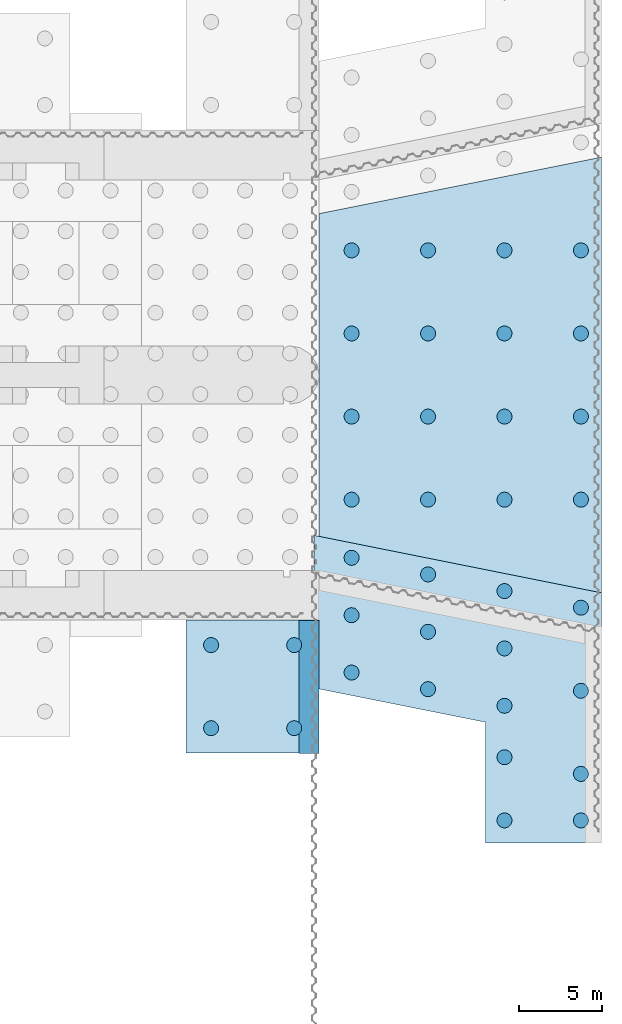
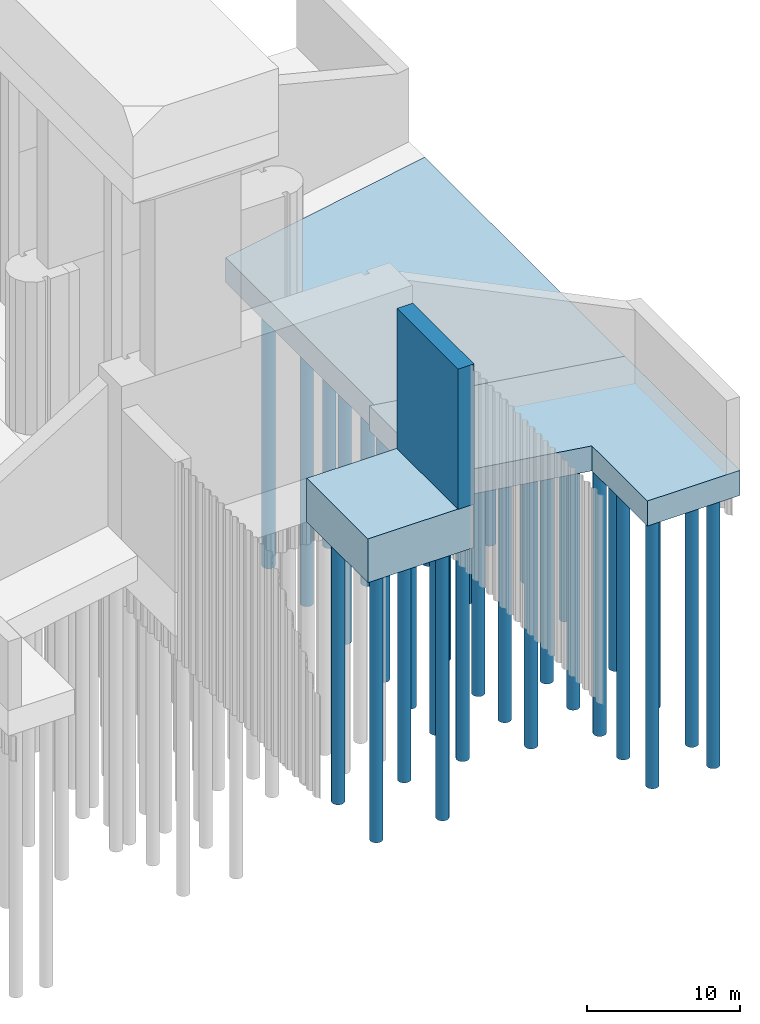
# One storey, part 4 of 9: 7 slabs.
"""IFC2X3 building model written with IfcOpenShell, lengths in millimetres."""

from ifc_helpers import new_model, entity, si_unit, converted_unit, derived_unit, direction, frame, frame_2d, origin, origin_2d_with_axis, place, context, subcontext, project, spatial, polyline, rectangle, circle, outline, extrude, material, type_object, element, save


model = new_model("IFC2X3")

# Units and contexts
model_context = context("Model", 3, precision=0.01, world=origin(), true_north=direction((6.12303176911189e-17, 1.0)))
body_context = subcontext(model_context, "Body", "Model", "MODEL_VIEW")
ifc_project = project(units=[si_unit("LENGTHUNIT", "METRE", prefix="MILLI"), si_unit("AREAUNIT", "SQUARE_METRE"), si_unit("VOLUMEUNIT", "CUBIC_METRE"), converted_unit("PLANEANGLEUNIT", "DEGREE", entity("IfcRatioMeasure", 0.0174532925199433), si_unit("PLANEANGLEUNIT", "RADIAN"), dimensions=[0, 0, 0, 0, 0, 0, 0]), si_unit("MASSUNIT", "GRAM", prefix="KILO"), derived_unit("MASSDENSITYUNIT", [(si_unit("MASSUNIT", "GRAM", prefix="KILO"), 1), (si_unit("LENGTHUNIT", "METRE"), -3)]), si_unit("TIMEUNIT", "SECOND"), si_unit("FREQUENCYUNIT", "HERTZ"), si_unit("THERMODYNAMICTEMPERATUREUNIT", "DEGREE_CELSIUS"), derived_unit("THERMALTRANSMITTANCEUNIT", [(si_unit("MASSUNIT", "GRAM", prefix="KILO"), 1), (si_unit("THERMODYNAMICTEMPERATUREUNIT", "KELVIN"), -1), (si_unit("TIMEUNIT", "SECOND"), -3)]), derived_unit("VOLUMETRICFLOWRATEUNIT", [(si_unit("LENGTHUNIT", "METRE"), 3), (si_unit("TIMEUNIT", "SECOND"), -1)]), si_unit("ELECTRICCURRENTUNIT", "AMPERE"), si_unit("ELECTRICVOLTAGEUNIT", "VOLT"), si_unit("POWERUNIT", "WATT"), si_unit("FORCEUNIT", "NEWTON", prefix="KILO"), si_unit("ILLUMINANCEUNIT", "LUX"), si_unit("LUMINOUSFLUXUNIT", "LUMEN"), si_unit("LUMINOUSINTENSITYUNIT", "CANDELA"), derived_unit("USERDEFINED", [(si_unit("MASSUNIT", "GRAM", prefix="KILO"), -1), (si_unit("LENGTHUNIT", "METRE"), -2), (si_unit("TIMEUNIT", "SECOND"), 3), (si_unit("LUMINOUSFLUXUNIT", "LUMEN"), 1)]), derived_unit("LINEARVELOCITYUNIT", [(si_unit("LENGTHUNIT", "METRE"), 1), (si_unit("TIMEUNIT", "SECOND"), -1)]), si_unit("PRESSUREUNIT", "PASCAL"), derived_unit("USERDEFINED", [(si_unit("LENGTHUNIT", "METRE"), -2), (si_unit("MASSUNIT", "GRAM", prefix="KILO"), 1), (si_unit("TIMEUNIT", "SECOND"), -2)])], contexts=[model_context])

# Site, building, storey
site_placement = place(None, origin())
site = spatial("IfcSite", under=ifc_project, at=site_placement, Name="Default", CompositionType="ELEMENT")
building_placement = place(site_placement, origin())
building = spatial("IfcBuilding", under=site, at=building_placement, CompositionType="ELEMENT")
storey_placement = place(building_placement, origin())
storey = spatial("IfcBuildingStorey", under=building, at=storey_placement, Name="設計GL", CompositionType="ELEMENT", Elevation=0.0)

# Slabs
ifc_material_1 = material(Name="コンクリート - 現場打ちコンクリート")
slab_type_1 = type_object("IfcSlabType", Name="40301_Co_川裏胸壁(下流)底版", PredefinedType="FLOOR", material=ifc_material_1)
slab_1_placement = place(storey_placement, origin())
element("IfcSlab", 1, at=slab_1_placement, inside=storey, type_object=slab_type_1, Name="40301_Co_川裏胸壁(下流)底版:40301_Co_川裏胸壁(下流)底版", ObjectType="40301_Co_川裏胸壁(下流)底版:40301_Co_川裏胸壁(下流)底版", PredefinedType="FLOOR", context=body_context, shape_type="SweptSolid", body=[
    extrude(rectangle(XDim=8000.00000000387, YDim=7999.99999999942, at=frame_2d((-4.32009983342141e-12, 2.04636307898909e-12), x_axis=(1.0, 0.0))), frame((-35111.6198004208, -80292.1243992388, 710.0), z_axis=(0.0, 0.0, 1.0), x_axis=(0.0, -1.0, 0.0)), (0.0, 0.0, 1.0), 3500.0),
])
slab_type_2 = type_object("IfcSlabType", Name="40701_Co_川裏翼壁(下流)底版", PredefinedType="FLOOR", material=ifc_material_1)
slab_2_placement = place(storey_placement, origin())
element("IfcSlab", 2, at=slab_2_placement, inside=storey, type_object=slab_type_2, Name="40701_Co_川裏翼壁(下流)底版:40701_Co_川裏翼壁(下流)底版", ObjectType="40701_Co_川裏翼壁(下流)底版:40701_Co_川裏翼壁(下流)底版", PredefinedType="FLOOR", context=body_context, shape_type="SweptSolid", body=[
    extrude(outline(polyline([(-9223.90261432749, 855.232818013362), (-11023.6474495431, -8144.61499376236), (6637.32496775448, -8144.56957429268), (9586.66534820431, 6603.00416501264), (2723.83535705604, 7975.71476701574), (1299.72439085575, 855.232818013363), (-9223.90261432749, 855.232818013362)])), frame((-22218.2229178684, -81337.2454768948, 2210.0), z_axis=(0.0, 0.0, -1.0), x_axis=(0.980585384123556, -0.196092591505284, 0.0)), (0.0, 0.0, -1.0), 2000.0),
])
slab_type_3 = type_object("IfcSlabType", Name="41001_Co_川裏翼壁_底版", PredefinedType="FLOOR", material=ifc_material_1)
slab_3_placement = place(storey_placement, origin())
element("IfcSlab", 3, at=slab_3_placement, inside=storey, type_object=slab_type_3, Name="41001_Co_川裏翼壁_底版:41001_Co_川裏翼壁_底版", ObjectType="41001_Co_川裏翼壁_底版:41001_Co_川裏翼壁_底版", PredefinedType="FLOOR", context=body_context, shape_type="SweptSolid", body=[
    extrude(outline(polyline([(-6430.77385682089, -11188.8580586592), (10905.8181575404, -11188.8580586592), (5764.05047140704, 14522.8466507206), (-10239.0947721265, 7854.86946659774), (-6430.77385682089, -11188.8580586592)])), frame((-22612.6693087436, -61542.1271637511, 2210.0), z_axis=(0.0, 0.0, 1.0), x_axis=(0.980584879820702, -0.196095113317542, 0.0)), (0.0, 0.0, 1.0), 2000.0),
])
slab_type_4 = type_object("IfcSlabType", Name="41601_Co_川裏胸壁(下流)側壁", PredefinedType="FLOOR", material=ifc_material_1)
slab_4_placement = place(storey_placement, origin())
element("IfcSlab", 4, at=slab_4_placement, inside=storey, type_object=slab_type_4, Name="41601_Co_川裏胸壁(下流)側壁:41601_Co_川裏胸壁(下流)側壁", ObjectType="41601_Co_川裏胸壁(下流)側壁:41601_Co_川裏胸壁(下流)側壁", PredefinedType="FLOOR", context=body_context, shape_type="SweptSolid", body=[
    extrude(rectangle(XDim=8000.0000000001, YDim=1199.99999999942, at=frame_2d((8.64019966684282e-12, -2.1600499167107e-12), x_axis=(1.0, 0.0))), frame((-31712.1441894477, -80322.1389265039, 4210.0), z_axis=(0.0, 0.0, 1.0), x_axis=(0.0, -1.0, 0.0)), (0.0, 0.0, 1.0), 11200.0),
])
ifc_material_2 = material(Name="ベタ基礎")
slab_type_5 = type_object("IfcSlabType", Name="70301.dwg", PredefinedType="FLOOR", material=ifc_material_2)
slab_5_placement = place(storey_placement, origin())
element("IfcSlab", 5, at=slab_5_placement, inside=storey, type_object=slab_type_5, Name="70301.dwg:70301.dwg", ObjectType="70301.dwg:70301.dwg", PredefinedType="FLOOR", context=body_context, shape_type="SweptSolid", body=[
    extrude(circle(Radius=450.0, at=origin_2d_with_axis()), frame((-37612.3774883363, -82791.8725997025, -21190.0)), (0.0, 0.0, 1.0), 22000.0),
    extrude(circle(Radius=450.0, at=origin_2d_with_axis()), frame((-32612.3774888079, -82791.8039357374, -21190.0)), (0.0, 0.0, 1.0), 22000.0),
    extrude(circle(Radius=450.0, at=origin_2d_with_axis()), frame((-37612.4461523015, -77791.872600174, -21190.0)), (0.0, 0.0, 1.0), 22000.0),
    extrude(circle(Radius=450.0, at=origin_2d_with_axis()), frame((-32612.446152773, -77791.8039362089, -21190.0)), (0.0, 0.0, 1.0), 22000.0),
])
slab_type_6 = type_object("IfcSlabType", Name="70701.dwg", PredefinedType="FLOOR", material=ifc_material_2)
slab_6_placement = place(storey_placement, origin())
element("IfcSlab", 6, at=slab_6_placement, inside=storey, type_object=slab_type_6, Name="70701.dwg:70701.dwg", ObjectType="70701.dwg:70701.dwg", PredefinedType="FLOOR", context=body_context, shape_type="SweptSolid", body=[
    extrude(circle(Radius=450.0, at=origin_2d_with_axis()), frame((-15358.7042148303, -88342.7044471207, -19690.0)), (0.0, 0.0, 1.0), 22000.0),
    extrude(circle(Radius=450.0, at=origin_2d_with_axis()), frame((-19958.7042148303, -88342.7044471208, -19690.0)), (0.0, 0.0, 1.0), 22000.0),
    extrude(circle(Radius=450.0, at=origin_2d_with_axis()), frame((-19958.7042148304, -84542.6313178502, -19690.0)), (0.0, 0.0, 1.0), 22000.0),
    extrude(circle(Radius=450.0, at=origin_2d_with_axis()), frame((-15358.7042148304, -85542.695861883, -19690.0)), (0.0, 0.0, 1.0), 22000.0),
    extrude(circle(Radius=450.0, at=origin_2d_with_axis()), frame((-15358.6698828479, -80542.6958620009, -19690.0)), (0.0, 0.0, 1.0), 22000.0),
    extrude(circle(Radius=450.0, at=origin_2d_with_axis()), frame((-19958.6698828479, -81445.2147165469, -19690.0)), (0.0, 0.0, 1.0), 22000.0),
    extrude(circle(Radius=450.0, at=origin_2d_with_axis()), frame((-15358.4776237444, -75541.9374313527, -19690.0)), (0.0, 0.0, 1.0), 22000.0),
    extrude(circle(Radius=450.0, at=origin_2d_with_axis()), frame((-19958.4913569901, -74541.9360582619, -19690.0)), (0.0, 0.0, 1.0), 22000.0),
    extrude(circle(Radius=450.0, at=origin_2d_with_axis()), frame((-24558.5050902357, -73541.9346851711, -19690.0)), (0.0, 0.0, 1.0), 22000.0),
    extrude(circle(Radius=450.0, at=origin_2d_with_axis()), frame((-29158.5188234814, -72541.9333120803, -19690.0)), (0.0, 0.0, 1.0), 22000.0),
    extrude(circle(Radius=450.0, at=origin_2d_with_axis()), frame((-29158.6698828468, -75993.7939291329, -19690.0)), (0.0, 0.0, 1.0), 22000.0),
    extrude(circle(Radius=450.0, at=origin_2d_with_axis()), frame((-29158.6698828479, -79445.0856284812, -19690.0)), (0.0, 0.0, 1.0), 22000.0),
    extrude(circle(Radius=450.0, at=origin_2d_with_axis()), frame((-24558.6698828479, -80445.1501725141, -19690.0)), (0.0, 0.0, 1.0), 22000.0),
    extrude(circle(Radius=450.0, at=origin_2d_with_axis()), frame((-24558.6698828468, -76993.8584731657, -19690.0)), (0.0, 0.0, 1.0), 22000.0),
    extrude(circle(Radius=450.0, at=origin_2d_with_axis()), frame((-19958.6698828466, -77993.9230171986, -19690.0)), (0.0, 0.0, 1.0), 22000.0),
])
slab_type_7 = type_object("IfcSlabType", Name="71001.dwg", PredefinedType="FLOOR", material=ifc_material_2)
slab_7_placement = place(storey_placement, origin())
element("IfcSlab", 7, at=slab_7_placement, inside=storey, type_object=slab_type_7, Name="71001.dwg:71001.dwg", ObjectType="71001.dwg:71001.dwg", PredefinedType="FLOOR", context=body_context, shape_type="SweptSolid", body=[
    extrude(circle(Radius=450.0, at=origin_2d_with_axis()), frame((-29158.6698828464, -69042.0322181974, -19690.0)), (0.0, 0.0, 1.0), 22000.0),
    extrude(circle(Radius=450.0, at=origin_2d_with_axis()), frame((-24558.6698828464, -69042.0322181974, -19690.0)), (0.0, 0.0, 1.0), 22000.0),
    extrude(circle(Radius=450.0, at=origin_2d_with_axis()), frame((-19958.6698828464, -69042.0322181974, -19690.0)), (0.0, 0.0, 1.0), 22000.0),
    extrude(circle(Radius=450.0, at=origin_2d_with_axis()), frame((-15358.6698828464, -69042.0322181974, -19690.0)), (0.0, 0.0, 1.0), 22000.0),
    extrude(circle(Radius=450.0, at=origin_2d_with_axis()), frame((-29158.6698828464, -64042.0322181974, -19690.0)), (0.0, 0.0, 1.0), 22000.0),
    extrude(circle(Radius=450.0, at=origin_2d_with_axis()), frame((-24558.6698828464, -64042.0322181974, -19690.0)), (0.0, 0.0, 1.0), 22000.0),
    extrude(circle(Radius=450.0, at=origin_2d_with_axis()), frame((-19958.6698828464, -64042.0322181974, -19690.0)), (0.0, 0.0, 1.0), 22000.0),
    extrude(circle(Radius=450.0, at=origin_2d_with_axis()), frame((-15358.6698828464, -64042.0322181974, -19690.0)), (0.0, 0.0, 1.0), 22000.0),
    extrude(circle(Radius=450.0, at=origin_2d_with_axis()), frame((-29158.6698828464, -59042.0322181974, -19690.0)), (0.0, 0.0, 1.0), 22000.0),
    extrude(circle(Radius=450.0, at=origin_2d_with_axis()), frame((-24558.6698828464, -59042.0322181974, -19690.0)), (0.0, 0.0, 1.0), 22000.0),
    extrude(circle(Radius=450.0, at=origin_2d_with_axis()), frame((-19958.6698828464, -59042.0322181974, -19690.0)), (0.0, 0.0, 1.0), 22000.0),
    extrude(circle(Radius=450.0, at=origin_2d_with_axis()), frame((-15358.6698828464, -59042.0322181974, -19690.0)), (0.0, 0.0, 1.0), 22000.0),
    extrude(circle(Radius=450.0, at=origin_2d_with_axis()), frame((-29158.6698828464, -54042.0322181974, -19690.0)), (0.0, 0.0, 1.0), 22000.0),
    extrude(circle(Radius=450.0, at=origin_2d_with_axis()), frame((-24558.6698828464, -54042.0322181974, -19690.0)), (0.0, 0.0, 1.0), 22000.0),
    extrude(circle(Radius=450.0, at=origin_2d_with_axis()), frame((-19958.6698828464, -54042.0322181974, -19690.0)), (0.0, 0.0, 1.0), 22000.0),
    extrude(circle(Radius=450.0, at=origin_2d_with_axis()), frame((-15358.6698828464, -54042.0322181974, -19690.0)), (0.0, 0.0, 1.0), 22000.0),
])

save(model, "model.ifc")
